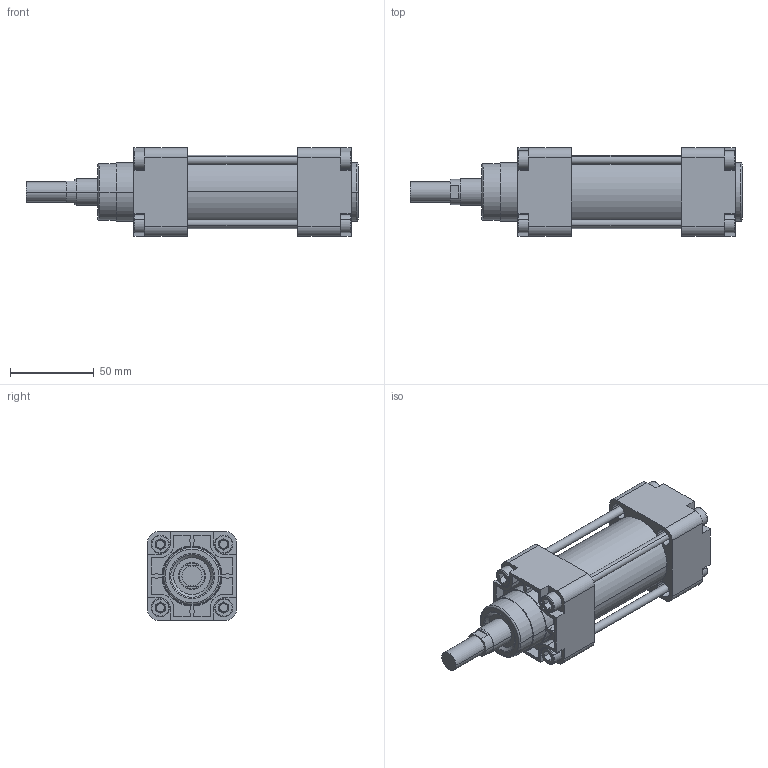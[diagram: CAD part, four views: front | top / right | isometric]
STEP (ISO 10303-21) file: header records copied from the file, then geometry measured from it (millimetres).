
FILE_DESCRIPTION(('CATIA V5 STEP Exchange'),'2;1');
FILE_NAME('D:\stp file for catalog\PNC\40\PNC 40-16-25.stp','2015-10-13T05:26:02+00:00',('none'),('none'),'Version 5-6 Release 2012','CATIA V5 STEP AP203','none');
FILE_SCHEMA(('CONFIG_CONTROL_DESIGN'));
Length unit declared in the file: millimetre
Products named in the file (1): PNC 40-16-25-00
Assembly tree (2 placements, depth 2):
  PNC 40-16-25-00
    #58
    #14775
Bounding box: 198.5 x 53 x 53 mm (x, y, z)
Volume: 262229.6 mm3; surface area: 83046.2 mm2
Topology: 2 solids, 2 shells, 562 faces, 1417 edges, 920 vertices
Faces by surface type: plane 352, cylinder 158, torus 26, cone 18, extrusion 8
Entity records: 15204 total; most frequent: CARTESIAN_POINT 2889, ORIENTED_EDGE 2834, DIRECTION 1905, EDGE_CURVE 1417, VERTEX_POINT 920, VECTOR 877, LINE 869, AXIS2_PLACEMENT_3D 764
